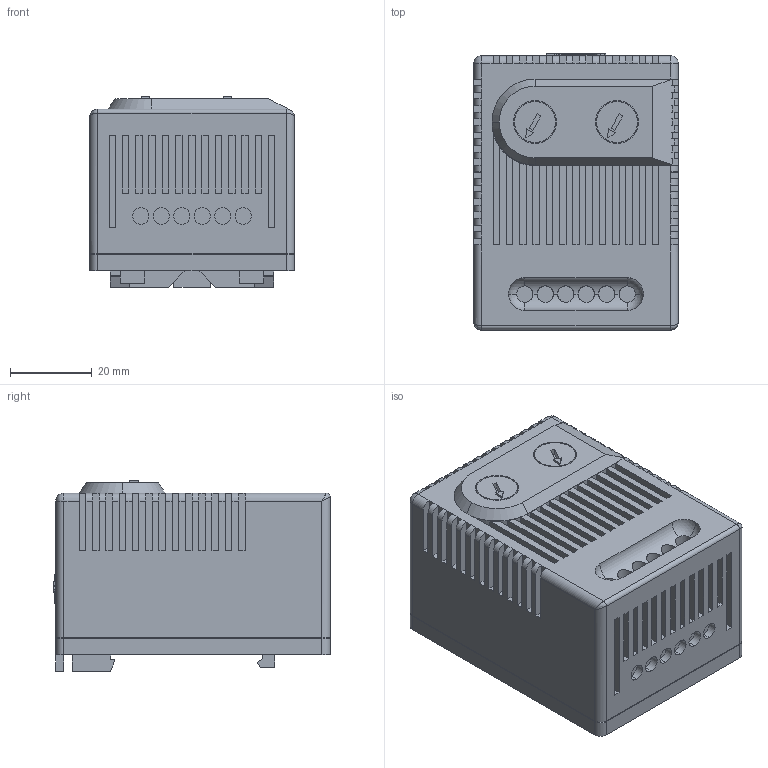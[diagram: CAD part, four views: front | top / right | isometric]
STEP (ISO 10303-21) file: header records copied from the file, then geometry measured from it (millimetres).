
FILE_DESCRIPTION (( 'STEP AP214' ), '1' );
FILE_NAME ('ZR_011_NC_NO_EPLAN_07_2013.STEP', '2013-07-24T08:01:30', ( 'Nutzer' ), ( '' ), 'SwSTEP 2.0', 'SolidWorks 2013', '' );
FILE_SCHEMA (( 'AUTOMOTIVE_DESIGN' ));
Length unit declared in the file: millimetre
Products named in the file (1): ZR_011_NC_NO_EPLAN_07_2013
Bounding box: 50 x 67.45 x 46.5 mm (x, y, z)
Volume: 130095.8 mm3; surface area: 23185.1 mm2
Topology: 2 solids, 2 shells, 656 faces, 1755 edges, 1130 vertices
Faces by surface type: plane 507, cylinder 93, bspline 48, sphere 6, cone 2
Entity records: 20869 total; most frequent: CARTESIAN_POINT 4497, ORIENTED_EDGE 3494, DIRECTION 3048, EDGE_CURVE 1747, LINE 1446, VECTOR 1446, VERTEX_POINT 1130, AXIS2_PLACEMENT_3D 801
